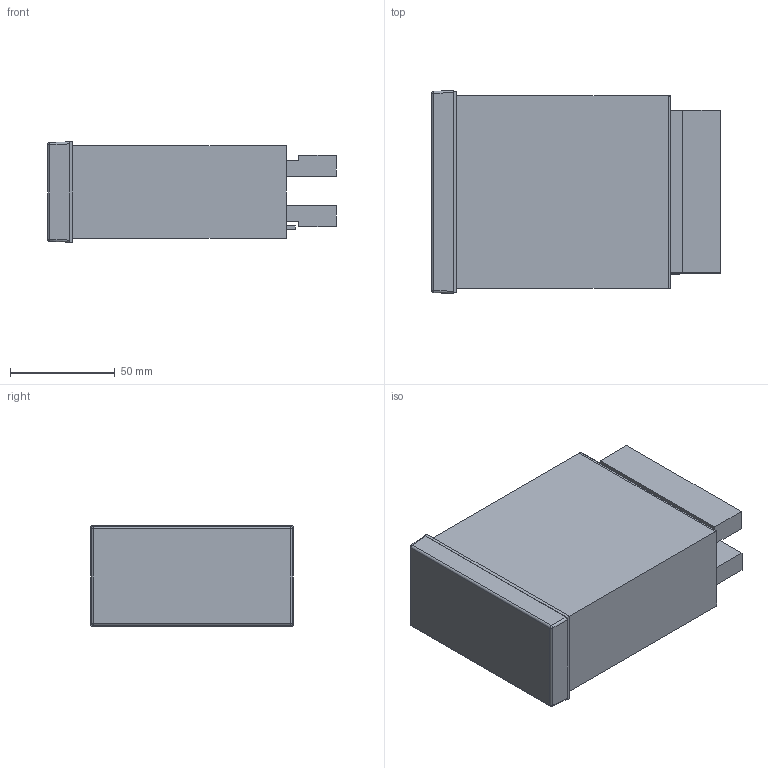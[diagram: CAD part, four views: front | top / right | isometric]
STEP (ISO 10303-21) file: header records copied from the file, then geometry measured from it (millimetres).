
FILE_DESCRIPTION(/* description */ (''),/* implementation_level */ '2;1');
FILE_NAME(/* name */ 'I:/New Datasheets/STEP Models/Pending models/Untitled v1.step',/* time_stamp */ '2019-06-14T10:03:02+01:00',/* author */ (''),/* organization */ (''),/* preprocessor_version */ 'ST-DEVELOPER v18',/* originating_system */ 'Autodesk Translation Framework v8.2.0.1029',/* authorisation */ '');
FILE_SCHEMA (('AUTOMOTIVE_DESIGN { 1 0 10303 214 3 1 1 }'));
Length unit declared in the file: millimetre
Products named in the file (5): Untitled; INT2_Case Detail_Back Panel v1; INT front cover v3; Intuitive 4 meter; Intuitive 4
Assembly tree (5 placements, depth 2):
  Untitled
    INT2_Case Detail_Back Panel v1  x2
    INT front cover v3
    Intuitive 4 meter
    Intuitive 4
Bounding box: 138 x 97 x 48.2 mm (x, y, z)
Surface area: 98502.7 mm2
Topology: 2 solids, 2 shells, 89 faces, 212 edges, 136 vertices
Faces by surface type: plane 77, cylinder 8, sphere 4
Entity records: 2680 total; most frequent: CARTESIAN_POINT 447, DIRECTION 430, ORIENTED_EDGE 424, EDGE_CURVE 212, LINE 192, VECTOR 192, VERTEX_POINT 136, AXIS2_PLACEMENT_3D 119
